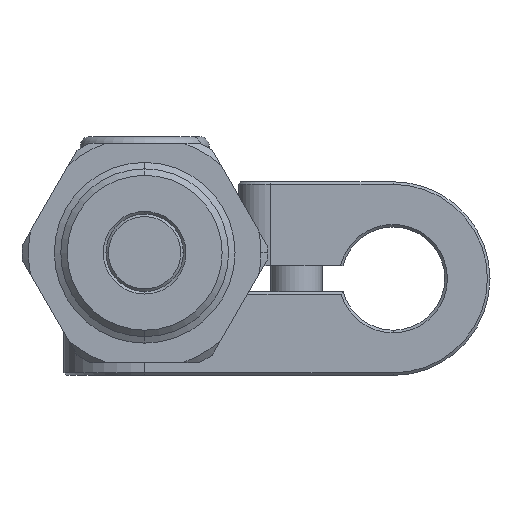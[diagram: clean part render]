
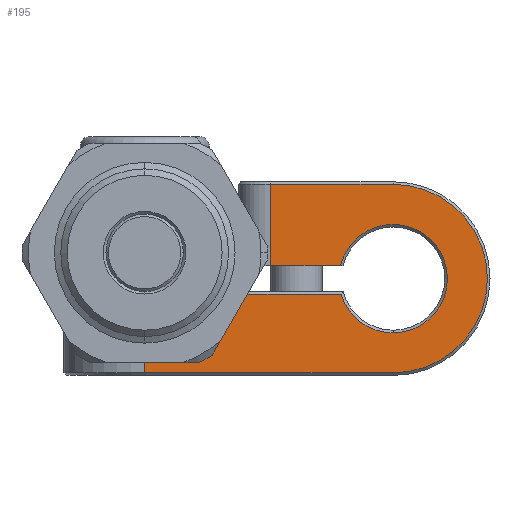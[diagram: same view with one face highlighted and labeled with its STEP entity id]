
A CAD part, front view. The second image highlights one B-rep face of the part: STEP entity #195.
In plain terms, the highlighted planar face has unit normal (0, -1, 0).
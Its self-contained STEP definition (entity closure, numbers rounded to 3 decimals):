
#109 = DIRECTION ( 'NONE',  ( 0., 0., 1. ) ) ;
#195 = ADVANCED_FACE ( 'NONE', ( #17841 ), #8422, .F. ) ;
#531 = ORIENTED_EDGE ( 'NONE', *, *, #19255, .T. ) ;
#595 = DIRECTION ( 'NONE',  ( 0., 0., 1. ) ) ;
#1319 = DIRECTION ( 'NONE',  ( 0., 1., 0. ) ) ;
#1446 = VERTEX_POINT ( 'NONE', #15728 ) ;
#1568 = CIRCLE ( 'NONE', #16306, 4.2 ) ;
#1720 = AXIS2_PLACEMENT_3D ( 'NONE', #6232, #19325, #8115 ) ;
#1796 = CARTESIAN_POINT ( 'NONE',  ( 13.544, 56.074, 19. ) ) ;
#2268 = CARTESIAN_POINT ( 'NONE',  ( -5.706, 56.074, 17.8 ) ) ;
#2529 = VERTEX_POINT ( 'NONE', #7353 ) ;
#2660 = CARTESIAN_POINT ( 'NONE',  ( 13.544, 56.074, 11.7 ) ) ;
#2669 = ORIENTED_EDGE ( 'NONE', *, *, #14665, .T. ) ;
#2678 = CARTESIAN_POINT ( 'NONE',  ( 13.544, 56.074, 26.3 ) ) ;
#2764 = CARTESIAN_POINT ( 'NONE',  ( 9.465, 56.074, 20. ) ) ;
#2849 = VECTOR ( 'NONE', #13467, 1000. ) ;
#2978 = CARTESIAN_POINT ( 'NONE',  ( 13.544, 56.074, 19. ) ) ;
#3431 = LINE ( 'NONE', #2268, #2849 ) ;
#4050 = VERTEX_POINT ( 'NONE', #2678 ) ;
#4191 = VECTOR ( 'NONE', #13744, 1000. ) ;
#4844 = DIRECTION ( 'NONE',  ( 0., 0., 1. ) ) ;
#5042 = LINE ( 'NONE', #6678, #19385 ) ;
#5467 = ORIENTED_EDGE ( 'NONE', *, *, #10572, .T. ) ;
#5678 = VECTOR ( 'NONE', #14366, 1000. ) ;
#5686 = VECTOR ( 'NONE', #9762, 1000. ) ;
#5863 = AXIS2_PLACEMENT_3D ( 'NONE', #1796, #1319, #109 ) ;
#6232 = CARTESIAN_POINT ( 'NONE',  ( 13.544, 56.074, 19. ) ) ;
#6678 = CARTESIAN_POINT ( 'NONE',  ( 4.044, 56.074, 20. ) ) ;
#7179 = ORIENTED_EDGE ( 'NONE', *, *, #9352, .T. ) ;
#7262 = DIRECTION ( 'NONE',  ( 0., -1., 0. ) ) ;
#7353 = CARTESIAN_POINT ( 'NONE',  ( -5.706, 56.074, 17.8 ) ) ;
#7955 = VERTEX_POINT ( 'NONE', #2764 ) ;
#7966 = CARTESIAN_POINT ( 'NONE',  ( 13.544, 56.074, 11.7 ) ) ;
#8115 = DIRECTION ( 'NONE',  ( 0., 0., 1. ) ) ;
#8148 = CARTESIAN_POINT ( 'NONE',  ( 13.544, 56.074, 14.8 ) ) ;
#8422 = PLANE ( 'NONE',  #5863 ) ;
#8994 = VECTOR ( 'NONE', #11007, 1000. ) ;
#9352 = EDGE_CURVE ( 'NONE', #2529, #1446, #19121, .T. ) ;
#9464 = EDGE_CURVE ( 'NONE', #18511, #12619, #5042, .T. ) ;
#9762 = DIRECTION ( 'NONE',  ( 1., 0., 0. ) ) ;
#9987 = VERTEX_POINT ( 'NONE', #8148 ) ;
#10347 = AXIS2_PLACEMENT_3D ( 'NONE', #22996, #11764, #595 ) ;
#10572 = EDGE_CURVE ( 'NONE', #12619, #7955, #14573, .T. ) ;
#10630 = LINE ( 'NONE', #18082, #5678 ) ;
#10741 = EDGE_CURVE ( 'NONE', #20767, #2529, #3431, .T. ) ;
#11007 = DIRECTION ( 'NONE',  ( 1., 0., 0. ) ) ;
#11625 = EDGE_CURVE ( 'NONE', #1446, #20558, #15672, .T. ) ;
#11661 = CARTESIAN_POINT ( 'NONE',  ( 4.044, 56.074, 26.3 ) ) ;
#11677 = ORIENTED_EDGE ( 'NONE', *, *, #10741, .T. ) ;
#11764 = DIRECTION ( 'NONE',  ( 0., 1., 0. ) ) ;
#12494 = EDGE_CURVE ( 'NONE', #4050, #18511, #10630, .T. ) ;
#12619 = VERTEX_POINT ( 'NONE', #19872 ) ;
#12734 = EDGE_CURVE ( 'NONE', #20558, #4050, #22050, .T. ) ;
#13267 = ORIENTED_EDGE ( 'NONE', *, *, #11625, .T. ) ;
#13467 = DIRECTION ( 'NONE',  ( -1., 0., 0. ) ) ;
#13588 = AXIS2_PLACEMENT_3D ( 'NONE', #18501, #7262, #20374 ) ;
#13677 = CIRCLE ( 'NONE', #10347, 4.2 ) ;
#13744 = DIRECTION ( 'NONE',  ( 0., 0., -1. ) ) ;
#14366 = DIRECTION ( 'NONE',  ( -1., 0., 0. ) ) ;
#14573 = LINE ( 'NONE', #24108, #8994 ) ;
#14665 = EDGE_CURVE ( 'NONE', #9987, #20767, #13677, .T. ) ;
#14940 = VERTEX_POINT ( 'NONE', #22075 ) ;
#15240 = ORIENTED_EDGE ( 'NONE', *, *, #9464, .T. ) ;
#15672 = LINE ( 'NONE', #7966, #5686 ) ;
#15728 = CARTESIAN_POINT ( 'NONE',  ( -5.706, 56.074, 11.7 ) ) ;
#15731 = CARTESIAN_POINT ( 'NONE',  ( -5.706, 56.074, 11.5 ) ) ;
#15993 = CIRCLE ( 'NONE', #1720, 4.2 ) ;
#16070 = DIRECTION ( 'NONE',  ( 0., 1., 0. ) ) ;
#16306 = AXIS2_PLACEMENT_3D ( 'NONE', #2978, #16070, #4844 ) ;
#17344 = ORIENTED_EDGE ( 'NONE', *, *, #12734, .T. ) ;
#17591 = EDGE_LOOP ( 'NONE', ( #531, #23855, #2669, #11677, #7179, #13267, #17344, #19362, #15240, #5467 ) ) ;
#17841 = FACE_OUTER_BOUND ( 'NONE', #17591, .T. ) ;
#18082 = CARTESIAN_POINT ( 'NONE',  ( 4.044, 56.074, 26.3 ) ) ;
#18501 = CARTESIAN_POINT ( 'NONE',  ( 13.544, 56.074, 19. ) ) ;
#18511 = VERTEX_POINT ( 'NONE', #11661 ) ;
#19121 = LINE ( 'NONE', #15731, #4191 ) ;
#19255 = EDGE_CURVE ( 'NONE', #7955, #14940, #15993, .T. ) ;
#19325 = DIRECTION ( 'NONE',  ( 0., 1., 0. ) ) ;
#19362 = ORIENTED_EDGE ( 'NONE', *, *, #12494, .T. ) ;
#19385 = VECTOR ( 'NONE', #19771, 1000. ) ;
#19771 = DIRECTION ( 'NONE',  ( 0., 0., -1. ) ) ;
#19872 = CARTESIAN_POINT ( 'NONE',  ( 4.044, 56.074, 20. ) ) ;
#20374 = DIRECTION ( 'NONE',  ( 0., 0., 1. ) ) ;
#20558 = VERTEX_POINT ( 'NONE', #2660 ) ;
#20767 = VERTEX_POINT ( 'NONE', #22282 ) ;
#22050 = CIRCLE ( 'NONE', #13588, 7.3 ) ;
#22075 = CARTESIAN_POINT ( 'NONE',  ( 13.544, 56.074, 23.2 ) ) ;
#22282 = CARTESIAN_POINT ( 'NONE',  ( 9.52, 56.074, 17.8 ) ) ;
#22693 = EDGE_CURVE ( 'NONE', #14940, #9987, #1568, .T. ) ;
#22996 = CARTESIAN_POINT ( 'NONE',  ( 13.544, 56.074, 19. ) ) ;
#23855 = ORIENTED_EDGE ( 'NONE', *, *, #22693, .T. ) ;
#24108 = CARTESIAN_POINT ( 'NONE',  ( 1.544, 56.074, 20. ) ) ;
